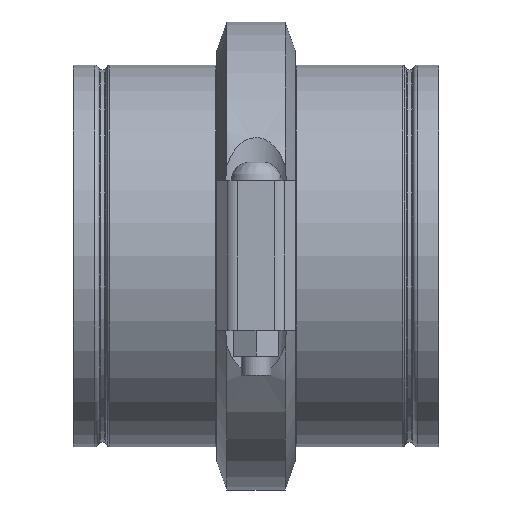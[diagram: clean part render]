
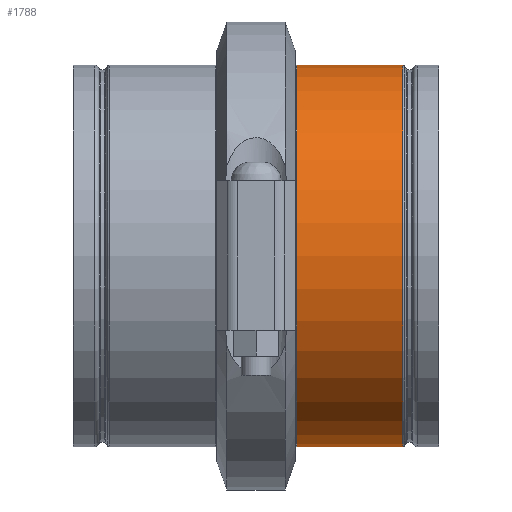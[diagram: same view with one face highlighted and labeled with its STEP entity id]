
A CAD part, top view. The second image highlights one B-rep face of the part: STEP entity #1788.
In plain terms, the highlighted cylindrical face has radius 161.925 mm (diameter 323.85 mm), a full revolution.
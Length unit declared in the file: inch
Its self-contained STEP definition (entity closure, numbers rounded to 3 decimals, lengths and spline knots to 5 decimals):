
#63=LINE('',#2910,#152);
#152=VECTOR('',#2343,6.375);
#241=CYLINDRICAL_SURFACE('',#2016,6.375);
#345=FACE_OUTER_BOUND('',#445,.T.);
#445=EDGE_LOOP('',(#1235,#1236,#1237,#1238,#1239,#1240,#1241,#1242));
#588=CIRCLE('',#2012,6.375);
#589=CIRCLE('',#2013,6.375);
#591=CIRCLE('',#2015,6.375);
#592=CIRCLE('',#2017,6.375);
#593=CIRCLE('',#2018,6.375);
#594=CIRCLE('',#2019,6.375);
#733=VERTEX_POINT('',#2897);
#734=VERTEX_POINT('',#2898);
#735=VERTEX_POINT('',#2900);
#736=VERTEX_POINT('',#2905);
#737=VERTEX_POINT('',#2906);
#738=VERTEX_POINT('',#2908);
#928=EDGE_CURVE('',#733,#734,#588,.T.);
#929=EDGE_CURVE('',#734,#735,#589,.T.);
#931=EDGE_CURVE('',#735,#733,#591,.T.);
#932=EDGE_CURVE('',#736,#737,#592,.T.);
#933=EDGE_CURVE('',#738,#736,#593,.T.);
#934=EDGE_CURVE('',#738,#734,#63,.T.);
#935=EDGE_CURVE('',#737,#738,#594,.T.);
#1235=ORIENTED_EDGE('',*,*,#932,.F.);
#1236=ORIENTED_EDGE('',*,*,#933,.F.);
#1237=ORIENTED_EDGE('',*,*,#934,.T.);
#1238=ORIENTED_EDGE('',*,*,#928,.F.);
#1239=ORIENTED_EDGE('',*,*,#931,.F.);
#1240=ORIENTED_EDGE('',*,*,#929,.F.);
#1241=ORIENTED_EDGE('',*,*,#934,.F.);
#1242=ORIENTED_EDGE('',*,*,#935,.F.);
#1788=ADVANCED_FACE('',(#345),#241,.T.);
#2012=AXIS2_PLACEMENT_3D('',#2899,#2329,#2330);
#2013=AXIS2_PLACEMENT_3D('',#2901,#2331,#2332);
#2015=AXIS2_PLACEMENT_3D('',#2903,#2335,#2336);
#2016=AXIS2_PLACEMENT_3D('',#2904,#2337,#2338);
#2017=AXIS2_PLACEMENT_3D('',#2907,#2339,#2340);
#2018=AXIS2_PLACEMENT_3D('',#2909,#2341,#2342);
#2019=AXIS2_PLACEMENT_3D('',#2911,#2344,#2345);
#2329=DIRECTION('center_axis',(-1.,0.,0.));
#2330=DIRECTION('ref_axis',(0.,-1.,0.));
#2331=DIRECTION('center_axis',(-1.,0.,0.));
#2332=DIRECTION('ref_axis',(0.,-1.,0.));
#2335=DIRECTION('center_axis',(-1.,0.,0.));
#2336=DIRECTION('ref_axis',(0.,-1.,0.));
#2337=DIRECTION('center_axis',(1.,0.,0.));
#2338=DIRECTION('ref_axis',(0.,1.,0.));
#2339=DIRECTION('center_axis',(1.,0.,0.));
#2340=DIRECTION('ref_axis',(0.,-1.,0.));
#2341=DIRECTION('center_axis',(1.,0.,0.));
#2342=DIRECTION('ref_axis',(0.,-1.,0.));
#2343=DIRECTION('',(-1.,0.,0.));
#2344=DIRECTION('center_axis',(1.,0.,0.));
#2345=DIRECTION('ref_axis',(0.,-1.,0.));
#2897=CARTESIAN_POINT('',(1.249,6.375,0.));
#2898=CARTESIAN_POINT('',(1.249,-6.375,0.));
#2899=CARTESIAN_POINT('Origin',(1.249,0.,0.));
#2900=CARTESIAN_POINT('',(1.249,0.,6.375));
#2901=CARTESIAN_POINT('Origin',(1.249,0.,0.));
#2903=CARTESIAN_POINT('Origin',(1.249,0.,0.));
#2904=CARTESIAN_POINT('Origin',(3.01773,0.,0.));
#2905=CARTESIAN_POINT('',(4.78523,6.375,0.));
#2906=CARTESIAN_POINT('',(4.78523,0.,6.375));
#2907=CARTESIAN_POINT('Origin',(4.78523,0.,0.));
#2908=CARTESIAN_POINT('',(4.78523,-6.375,0.));
#2909=CARTESIAN_POINT('Origin',(4.78523,0.,0.));
#2910=CARTESIAN_POINT('',(3.01773,-6.375,0.));
#2911=CARTESIAN_POINT('Origin',(4.78523,0.,0.));
